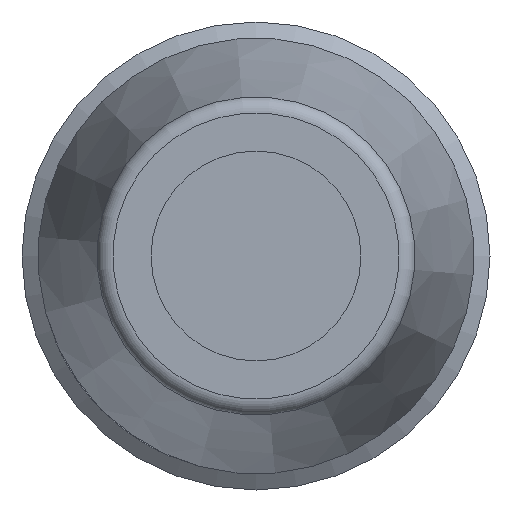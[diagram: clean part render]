
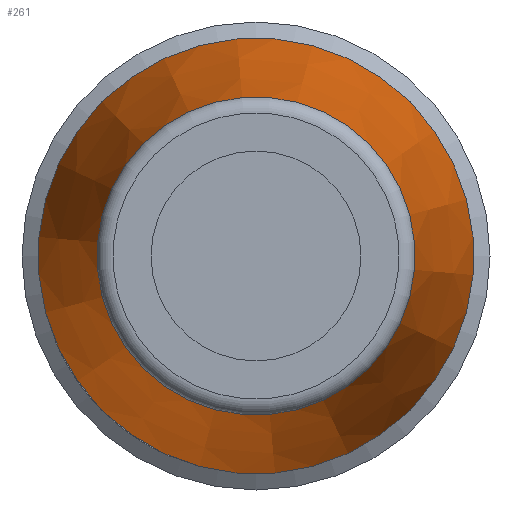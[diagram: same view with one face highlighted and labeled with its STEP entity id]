
A CAD part, left-side view. The second image highlights one B-rep face of the part: STEP entity #261.
In plain terms, the highlighted conical face has half-angle 11 degrees and reference radius 6.75 mm.
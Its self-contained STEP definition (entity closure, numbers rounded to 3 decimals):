
#261 = ADVANCED_FACE( '', ( #585, #586 ), #587, .T. );
#585 = FACE_OUTER_BOUND( '', #946, .T. );
#586 = FACE_BOUND( '', #947, .T. );
#587 = CONICAL_SURFACE( '', #948, 6.75, 0.192 );
#946 = EDGE_LOOP( '', ( #1662 ) );
#947 = EDGE_LOOP( '', ( #1663 ) );
#948 = AXIS2_PLACEMENT_3D( '', #1664, #1665, #1666 );
#1662 = ORIENTED_EDGE( '', *, *, #2192, .F. );
#1663 = ORIENTED_EDGE( '', *, *, #2193, .T. );
#1664 = CARTESIAN_POINT( '', ( -33.325, 0., 0. ) );
#1665 = DIRECTION( '', ( 1., 0., 0. ) );
#1666 = DIRECTION( '', ( 0., 0.707, 0.707 ) );
#2192 = EDGE_CURVE( '', #2637, #2637, #2638, .T. );
#2193 = EDGE_CURVE( '', #2639, #2639, #2640, .T. );
#2637 = VERTEX_POINT( '', #3731 );
#2638 = CIRCLE( '', #3732, 6.75 );
#2639 = VERTEX_POINT( '', #3733 );
#2640 = CIRCLE( '', #3734, 4.929 );
#3731 = CARTESIAN_POINT( '', ( -33.325, 4.773, 4.773 ) );
#3732 = AXIS2_PLACEMENT_3D( '', #4091, #4092, #4093 );
#3733 = CARTESIAN_POINT( '', ( -42.695, 3.485, 3.485 ) );
#3734 = AXIS2_PLACEMENT_3D( '', #4094, #4095, #4096 );
#4091 = CARTESIAN_POINT( '', ( -33.325, 0., 0. ) );
#4092 = DIRECTION( '', ( 1., 0., 0. ) );
#4093 = DIRECTION( '', ( 0., 0.707, 0.707 ) );
#4094 = CARTESIAN_POINT( '', ( -42.695, 0., 0. ) );
#4095 = DIRECTION( '', ( 1., 0., 0. ) );
#4096 = DIRECTION( '', ( 0., 0.707, 0.707 ) );
